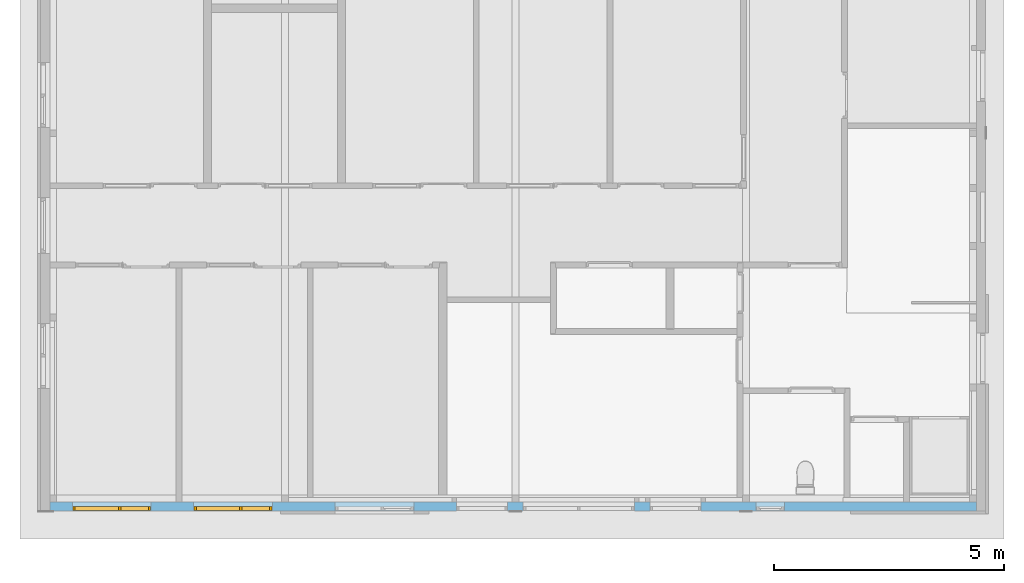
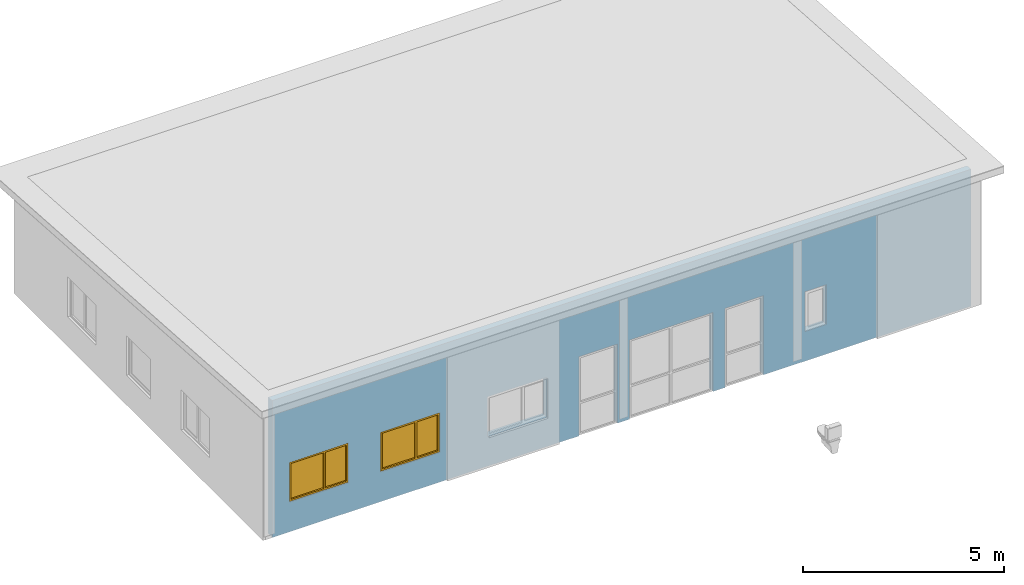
# One storey, part 15 of 37: 2 windows, 7 openings, plus 1 element that does not belong to this part.
"""IFC2X3 building model written with IfcOpenShell, lengths in millimetres."""

from ifc_helpers import new_model, entity, si_unit, converted_unit, frame, frame_2d, origin, origin_with_axes, place, context, subcontext, project, spatial, rectangle, extrude, clip, halfspace, faceted_brep, material, layer, layer_set, layer_usage, type_object, element, fill, save


model = new_model("IFC2X3")

# Units and contexts
model_context = context("Model", 3, precision=1e-05, world=origin())
plan_context = context("Plan", 3, precision=1e-05, world=origin())
body_context = subcontext(model_context, "Body", "Model", "MODEL_VIEW")
ifc_project = project(units=[si_unit("LENGTHUNIT", "METRE", prefix="MILLI"), converted_unit("PLANEANGLEUNIT", "DEGREE", entity("IfcPlaneAngleMeasure", 0.0174532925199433), si_unit("PLANEANGLEUNIT", "RADIAN"), dimensions=[0, 0, 0, 0, 0, 0, 0]), si_unit("AREAUNIT", "SQUARE_METRE"), si_unit("VOLUMEUNIT", "CUBIC_METRE")], contexts=[model_context, plan_context])

# Building, storey
building_placement = place(None, origin())
building = spatial("IfcBuilding", under=ifc_project, at=building_placement, Name="HEKF Administrasjonbygg", CompositionType="ELEMENT")
storey_placement = place(building_placement, frame((0.0, 0.0, 9900.0), z_axis=(0.0, 0.0, 1.0), x_axis=(1.0, 0.0, 0.0)))
storey = spatial("IfcBuildingStorey", under=building, at=storey_placement, Name="Plan 2", CompositionType="ELEMENT", Elevation=9900.0)

# Wall, openings, windows
ifc_material_1 = material(Name="Paroc 200")
ifc_layer = layer(ifc_material_1, 200.0)
ifc_layer_set = layer_set([ifc_layer])
ifc_layer_usage = layer_usage(ifc_layer_set, "AXIS2", "POSITIVE", 0.0)
wall_placement = place(storey_placement, frame((30000.0, -12000.0, 0.0), z_axis=(0.0, 0.0, 1.0), x_axis=(-1.0, 9.049698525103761e-17, 0.0)))
wall = element("IfcWallStandardCase", 1, at=wall_placement, inside=storey, material=ifc_layer_usage, context=body_context, shape_type="Clipping", body=[
    clip(extrude(rectangle(XDim=20100.00000000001, YDim=200.0, at=frame_2d((10050.0, 100.0), x_axis=(1.0, 0.0))), origin_with_axes(), (0.0, 0.0, 1.0), 4163.33333333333), halfspace(frame((0.0, 0.0, 4149.999999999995), z_axis=(9.405890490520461e-21, 0.06651901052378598, -0.9977851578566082), x_axis=(1.0, 0.0, 0.0)), True)),
])
opening_1_placement = place(wall_placement, frame((4165.0, 0.0, 900.0), z_axis=(0.0, 1.0, 0.0), x_axis=(0.0, 0.0, 1.0)))
element("IfcOpeningElement", 2, at=opening_1_placement, cuts=wall, Name="Window opening", ObjectType="Opening", context=body_context, shape_type="SweptSolid", body=[
    extrude(rectangle(XDim=1210.0, YDim=610.0, at=frame_2d((605.0, 305.0), x_axis=(1.0, 0.0))), origin_with_axes(), (0.0, 0.0, 1.0), 200.0),
])
opening_2_placement = place(wall_placement, frame((7420.0, 0.0, 0.0), z_axis=(0.0, 1.0, 0.0), x_axis=(0.0, 0.0, 1.0)))
element("IfcOpeningElement", 3, at=opening_2_placement, cuts=wall, Name="Window opening", ObjectType="Opening", context=body_context, shape_type="SweptSolid", body=[
    extrude(rectangle(XDim=2410.0, YDim=2410.0, at=frame_2d((1205.0, 1205.0), x_axis=(1.0, 0.0))), origin_with_axes(), (0.0, 0.0, 1.0), 200.0),
])
opening_3_placement = place(wall_placement, frame((5970.0, 0.0, 0.0), z_axis=(0.0, 1.0, 0.0), x_axis=(0.0, 0.0, 1.0)))
element("IfcOpeningElement", 4, at=opening_3_placement, cuts=wall, Name="Window opening", ObjectType="Opening", context=body_context, shape_type="SweptSolid", body=[
    extrude(rectangle(XDim=2410.0, YDim=1110.0, at=frame_2d((1205.0, 555.0), x_axis=(1.0, 0.0))), origin_with_axes(), (0.0, 0.0, 1.0), 200.0),
])
opening_4_placement = place(wall_placement, frame((10170.0, -1.818989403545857e-12, 0.0), z_axis=(0.0, 1.0, 0.0), x_axis=(0.0, 0.0, 1.0)))
element("IfcOpeningElement", 5, at=opening_4_placement, cuts=wall, Name="Window opening", ObjectType="Opening", context=body_context, shape_type="SweptSolid", body=[
    extrude(rectangle(XDim=2410.0, YDim=1110.0, at=frame_2d((1205.0, 555.0), x_axis=(1.0, 0.0))), origin_with_axes(), (0.0, 0.0, 1.0), 200.0),
])
opening_5_placement = place(wall_placement, frame((12200.0, -1.818989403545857e-12, 900.0), z_axis=(0.0, 1.0, 0.0), x_axis=(0.0, 0.0, 1.0)))
element("IfcOpeningElement", 6, at=opening_5_placement, cuts=wall, Name="Window opening", ObjectType="Opening", context=body_context, shape_type="SweptSolid", body=[
    extrude(rectangle(XDim=1210.0, YDim=1709.999999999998, at=frame_2d((605.0, 854.9999999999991), x_axis=(1.0, 0.0))), origin_with_axes(), (0.0, 0.0, 1.0), 200.0),
])
opening_6_placement = place(wall_placement, frame((15270.0, -1.818989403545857e-12, 900.0), z_axis=(0.0, 1.0, 0.0), x_axis=(0.0, 0.0, 1.0)))
opening_6 = element("IfcOpeningElement", 7, at=opening_6_placement, cuts=wall, Name="Window opening", ObjectType="Opening", context=body_context, shape_type="SweptSolid", body=[
    extrude(rectangle(XDim=1210.0, YDim=1710.0, at=frame_2d((605.0, 855.0), x_axis=(1.0, 0.0))), origin_with_axes(), (0.0, 0.0, 1.0), 200.0),
])
opening_7_placement = place(wall_placement, frame((17900.0, -1.818989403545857e-12, 900.0), z_axis=(0.0, 1.0, 0.0), x_axis=(0.0, 0.0, 1.0)))
opening_7 = element("IfcOpeningElement", 8, at=opening_7_placement, cuts=wall, Name="Window opening", ObjectType="Opening", context=body_context, shape_type="SweptSolid", body=[
    extrude(rectangle(XDim=1210.0, YDim=1710.0, at=frame_2d((605.0, 855.0), x_axis=(1.0, 0.0))), origin_with_axes(), (0.0, 0.0, 1.0), 200.0),
])
ifc_material_2 = material()
window_style_1 = type_object("IfcWindowStyle", Name="V202", ConstructionType="NOTDEFINED", OperationType="USERDEFINED", ParameterTakesPrecedence=False, Sizeable=False)
window_1_placement = place(opening_6_placement, frame((0.0, 0.0, 0.0), z_axis=(1.0, 0.0, 0.0), x_axis=(0.0, 1.0, 0.0)))
window_1 = element("IfcWindow", 9, at=window_1_placement, inside=storey, type_object=window_style_1, material=ifc_material_2, Name="V202", OverallHeight=1210.0, OverallWidth=1710.0, context=body_context, shape_type="Brep", body=[
    faceted_brep([(1700.0, 93.99999999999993, 1200.0), (1700.0, 94.0, 9.999999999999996), (1650.0, 94.0, 9.999999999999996), (1650.0, 93.99999999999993, 1200.0), (1700.0, 186.0, 10.0), (1700.0, 185.9999999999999, 1200.0), (1650.0, 185.9999999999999, 1200.0), (1650.0, 186.0, 10.0), (1700.0, 94.0, 9.999999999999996), (1700.0, 93.99999999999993, 1200.0), (1700.0, 185.9999999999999, 1200.0), (1700.0, 186.0, 10.0), (1650.0, 94.0, 9.999999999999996), (1700.0, 94.0, 9.999999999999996), (1700.0, 186.0, 10.0), (1650.0, 186.0, 10.0), (1650.0, 93.99999999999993, 1200.0), (1650.0, 94.0, 9.999999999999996), (1650.0, 186.0, 10.0), (1650.0, 185.9999999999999, 1200.0), (1700.0, 93.99999999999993, 1200.0), (1650.0, 93.99999999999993, 1200.0), (1650.0, 185.9999999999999, 1200.0), (1700.0, 185.9999999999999, 1200.0)], [[[0, 1, 2, 3]], [[4, 5, 6, 7]], [[8, 9, 10, 11]], [[12, 13, 14, 15]], [[16, 17, 18, 19]], [[20, 21, 22, 23]]], orient=[[False], [False], [False], [False], [False], [False]]),
    faceted_brep([(60.0, 93.99999999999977, 1200.0), (60.0, 93.99999999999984, 9.999999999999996), (10.0, 93.99999999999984, 9.999999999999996), (10.0, 93.99999999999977, 1200.0), (60.0, 185.9999999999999, 10.0), (60.0, 185.9999999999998, 1200.0), (10.0, 185.9999999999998, 1200.0), (10.0, 185.9999999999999, 10.0), (60.0, 93.99999999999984, 9.999999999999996), (60.0, 93.99999999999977, 1200.0), (60.0, 185.9999999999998, 1200.0), (60.0, 185.9999999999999, 10.0), (10.0, 93.99999999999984, 9.999999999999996), (60.0, 93.99999999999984, 9.999999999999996), (60.0, 185.9999999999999, 10.0), (10.0, 185.9999999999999, 10.0), (10.0, 93.99999999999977, 1200.0), (10.0, 93.99999999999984, 9.999999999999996), (10.0, 185.9999999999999, 10.0), (10.0, 185.9999999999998, 1200.0), (60.0, 93.99999999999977, 1200.0), (10.0, 93.99999999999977, 1200.0), (10.0, 185.9999999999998, 1200.0), (60.0, 185.9999999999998, 1200.0)], [[[0, 1, 2, 3]], [[4, 5, 6, 7]], [[8, 9, 10, 11]], [[12, 13, 14, 15]], [[16, 17, 18, 19]], [[20, 21, 22, 23]]], orient=[[False], [False], [False], [False], [False], [False]]),
    faceted_brep([(1650.0, 94.0, 60.0), (1650.0, 94.0, 9.999999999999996), (60.00000000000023, 93.99999999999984, 9.999999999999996), (60.00000000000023, 93.99999999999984, 60.0), (1650.0, 186.0, 10.0), (1650.0, 186.0, 60.0), (60.00000000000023, 185.9999999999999, 60.0), (60.00000000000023, 185.9999999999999, 10.0), (1650.0, 94.0, 9.999999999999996), (1650.0, 94.0, 60.0), (1650.0, 186.0, 60.0), (1650.0, 186.0, 10.0), (60.00000000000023, 93.99999999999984, 9.999999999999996), (1650.0, 94.0, 9.999999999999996), (1650.0, 186.0, 10.0), (60.00000000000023, 185.9999999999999, 10.0), (60.00000000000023, 93.99999999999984, 60.0), (60.00000000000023, 93.99999999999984, 9.999999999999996), (60.00000000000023, 185.9999999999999, 10.0), (60.00000000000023, 185.9999999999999, 60.0), (1650.0, 94.0, 60.0), (60.00000000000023, 93.99999999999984, 60.0), (60.00000000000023, 185.9999999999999, 60.0), (1650.0, 186.0, 60.0)], [[[0, 1, 2, 3]], [[4, 5, 6, 7]], [[8, 9, 10, 11]], [[12, 13, 14, 15]], [[16, 17, 18, 19]], [[20, 21, 22, 23]]], orient=[[False], [False], [False], [False], [False], [False]]),
    faceted_brep([(1650.0, 93.99999999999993, 1200.0), (1650.0, 93.99999999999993, 1150.0), (60.00000000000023, 93.99999999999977, 1150.0), (60.00000000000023, 93.99999999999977, 1200.0), (1650.0, 185.9999999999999, 1150.0), (1650.0, 185.9999999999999, 1200.0), (60.00000000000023, 185.9999999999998, 1200.0), (60.00000000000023, 185.9999999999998, 1150.0), (1650.0, 93.99999999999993, 1150.0), (1650.0, 93.99999999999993, 1200.0), (1650.0, 185.9999999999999, 1200.0), (1650.0, 185.9999999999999, 1150.0), (60.00000000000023, 93.99999999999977, 1150.0), (1650.0, 93.99999999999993, 1150.0), (1650.0, 185.9999999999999, 1150.0), (60.00000000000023, 185.9999999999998, 1150.0), (60.00000000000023, 93.99999999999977, 1200.0), (60.00000000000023, 93.99999999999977, 1150.0), (60.00000000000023, 185.9999999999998, 1150.0), (60.00000000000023, 185.9999999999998, 1200.0), (1650.0, 93.99999999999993, 1200.0), (60.00000000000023, 93.99999999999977, 1200.0), (60.00000000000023, 185.9999999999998, 1200.0), (1650.0, 185.9999999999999, 1200.0)], [[[0, 1, 2, 3]], [[4, 5, 6, 7]], [[8, 9, 10, 11]], [[12, 13, 14, 15]], [[16, 17, 18, 19]], [[20, 21, 22, 23]]], orient=[[False], [False], [False], [False], [False], [False]]),
    faceted_brep([(710.0000000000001, 93.99999999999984, 1150.0), (710.0000000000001, 93.99999999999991, 60.00000000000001), (660.0, 93.9999999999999, 60.00000000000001), (660.0, 93.99999999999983, 1150.0), (710.0000000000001, 185.9999999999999, 60.00000000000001), (710.0000000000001, 185.9999999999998, 1150.0), (660.0, 185.9999999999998, 1150.0), (660.0, 185.9999999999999, 60.00000000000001), (710.0000000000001, 93.99999999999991, 60.00000000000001), (710.0000000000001, 93.99999999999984, 1150.0), (710.0000000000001, 185.9999999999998, 1150.0), (710.0000000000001, 185.9999999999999, 60.00000000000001), (660.0, 93.9999999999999, 60.00000000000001), (710.0000000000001, 93.99999999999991, 60.00000000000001), (710.0000000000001, 185.9999999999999, 60.00000000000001), (660.0, 185.9999999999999, 60.00000000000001), (660.0, 93.99999999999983, 1150.0), (660.0, 93.9999999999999, 60.00000000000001), (660.0, 185.9999999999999, 60.00000000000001), (660.0, 185.9999999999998, 1150.0), (710.0000000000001, 93.99999999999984, 1150.0), (660.0, 93.99999999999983, 1150.0), (660.0, 185.9999999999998, 1150.0), (710.0000000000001, 185.9999999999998, 1150.0)], [[[0, 1, 2, 3]], [[4, 5, 6, 7]], [[8, 9, 10, 11]], [[12, 13, 14, 15]], [[16, 17, 18, 19]], [[20, 21, 22, 23]]], orient=[[False], [False], [False], [False], [False], [False]]),
    faceted_brep([(1650.0, 140.0, 60.00000000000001), (710.0000000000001, 139.9999999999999, 60.00000000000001), (710.0000000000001, 139.9999999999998, 1150.0), (1650.0, 139.9999999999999, 1150.0), (1650.0, 141.0, 60.00000000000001), (1650.0, 140.9999999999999, 1150.0), (710.0000000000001, 140.9999999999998, 1150.0), (710.0000000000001, 140.9999999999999, 60.00000000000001), (1650.0, 140.0, 60.00000000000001), (1650.0, 141.0, 60.00000000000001), (710.0000000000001, 140.9999999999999, 60.00000000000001), (710.0000000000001, 139.9999999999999, 60.00000000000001), (710.0000000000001, 139.9999999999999, 60.00000000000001), (710.0000000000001, 140.9999999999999, 60.00000000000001), (710.0000000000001, 140.9999999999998, 1150.0), (710.0000000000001, 139.9999999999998, 1150.0), (710.0000000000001, 139.9999999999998, 1150.0), (710.0000000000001, 140.9999999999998, 1150.0), (1650.0, 140.9999999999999, 1150.0), (1650.0, 139.9999999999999, 1150.0), (1650.0, 139.9999999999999, 1150.0), (1650.0, 140.9999999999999, 1150.0), (1650.0, 141.0, 60.00000000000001), (1650.0, 140.0, 60.00000000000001)], [[[0, 1, 2, 3]], [[4, 5, 6, 7]], [[8, 9, 10, 11]], [[12, 13, 14, 15]], [[16, 17, 18, 19]], [[20, 21, 22, 23]]], orient=[[False], [False], [False], [False], [False], [False]]),
    faceted_brep([(660.0000000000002, 139.9999999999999, 60.00000000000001), (60.00000000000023, 139.9999999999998, 60.00000000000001), (60.00000000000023, 139.9999999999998, 1150.0), (660.0000000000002, 139.9999999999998, 1150.0), (660.0000000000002, 140.9999999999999, 60.00000000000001), (660.0000000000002, 140.9999999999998, 1150.0), (60.00000000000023, 140.9999999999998, 1150.0), (60.00000000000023, 140.9999999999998, 60.00000000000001), (660.0000000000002, 139.9999999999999, 60.00000000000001), (660.0000000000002, 140.9999999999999, 60.00000000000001), (60.00000000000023, 140.9999999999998, 60.00000000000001), (60.00000000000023, 139.9999999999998, 60.00000000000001), (60.00000000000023, 139.9999999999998, 60.00000000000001), (60.00000000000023, 140.9999999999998, 60.00000000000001), (60.00000000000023, 140.9999999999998, 1150.0), (60.00000000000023, 139.9999999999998, 1150.0), (60.00000000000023, 139.9999999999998, 1150.0), (60.00000000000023, 140.9999999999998, 1150.0), (660.0000000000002, 140.9999999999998, 1150.0), (660.0000000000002, 139.9999999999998, 1150.0), (660.0000000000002, 139.9999999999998, 1150.0), (660.0000000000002, 140.9999999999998, 1150.0), (660.0000000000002, 140.9999999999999, 60.00000000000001), (660.0000000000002, 139.9999999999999, 60.00000000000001)], [[[0, 1, 2, 3]], [[4, 5, 6, 7]], [[8, 9, 10, 11]], [[12, 13, 14, 15]], [[16, 17, 18, 19]], [[20, 21, 22, 23]]], orient=[[False], [False], [False], [False], [False], [False]]),
])
fill(opening_6, window_1)
ifc_material_3 = material()
window_style_2 = type_object("IfcWindowStyle", Name="V201", ConstructionType="NOTDEFINED", OperationType="USERDEFINED", ParameterTakesPrecedence=False, Sizeable=False)
window_2_placement = place(opening_7_placement, frame((0.0, 0.0, 0.0), z_axis=(1.0, 0.0, 0.0), x_axis=(0.0, 1.0, 0.0)))
window_2 = element("IfcWindow", 10, at=window_2_placement, inside=storey, type_object=window_style_2, material=ifc_material_3, Name="V201", OverallHeight=1210.0, OverallWidth=1710.0, context=body_context, shape_type="Brep", body=[
    faceted_brep([(1700.0, 93.99999999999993, 1200.0), (1700.0, 94.0, 9.999999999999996), (1650.0, 94.0, 9.999999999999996), (1650.0, 93.99999999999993, 1200.0), (1700.0, 186.0, 10.0), (1700.0, 185.9999999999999, 1200.0), (1650.0, 185.9999999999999, 1200.0), (1650.0, 186.0, 10.0), (1700.0, 94.0, 9.999999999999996), (1700.0, 93.99999999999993, 1200.0), (1700.0, 185.9999999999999, 1200.0), (1700.0, 186.0, 10.0), (1650.0, 94.0, 9.999999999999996), (1700.0, 94.0, 9.999999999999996), (1700.0, 186.0, 10.0), (1650.0, 186.0, 10.0), (1650.0, 93.99999999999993, 1200.0), (1650.0, 94.0, 9.999999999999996), (1650.0, 186.0, 10.0), (1650.0, 185.9999999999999, 1200.0), (1700.0, 93.99999999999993, 1200.0), (1650.0, 93.99999999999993, 1200.0), (1650.0, 185.9999999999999, 1200.0), (1700.0, 185.9999999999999, 1200.0)], [[[0, 1, 2, 3]], [[4, 5, 6, 7]], [[8, 9, 10, 11]], [[12, 13, 14, 15]], [[16, 17, 18, 19]], [[20, 21, 22, 23]]], orient=[[False], [False], [False], [False], [False], [False]]),
    faceted_brep([(60.0, 93.99999999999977, 1200.0), (60.0, 93.99999999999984, 9.999999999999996), (10.0, 93.99999999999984, 9.999999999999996), (10.0, 93.99999999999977, 1200.0), (60.0, 185.9999999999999, 10.0), (60.0, 185.9999999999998, 1200.0), (10.0, 185.9999999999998, 1200.0), (10.0, 185.9999999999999, 10.0), (60.0, 93.99999999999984, 9.999999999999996), (60.0, 93.99999999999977, 1200.0), (60.0, 185.9999999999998, 1200.0), (60.0, 185.9999999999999, 10.0), (10.0, 93.99999999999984, 9.999999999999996), (60.0, 93.99999999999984, 9.999999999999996), (60.0, 185.9999999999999, 10.0), (10.0, 185.9999999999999, 10.0), (10.0, 93.99999999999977, 1200.0), (10.0, 93.99999999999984, 9.999999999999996), (10.0, 185.9999999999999, 10.0), (10.0, 185.9999999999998, 1200.0), (60.0, 93.99999999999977, 1200.0), (10.0, 93.99999999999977, 1200.0), (10.0, 185.9999999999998, 1200.0), (60.0, 185.9999999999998, 1200.0)], [[[0, 1, 2, 3]], [[4, 5, 6, 7]], [[8, 9, 10, 11]], [[12, 13, 14, 15]], [[16, 17, 18, 19]], [[20, 21, 22, 23]]], orient=[[False], [False], [False], [False], [False], [False]]),
    faceted_brep([(1650.0, 94.0, 60.0), (1650.0, 94.0, 9.999999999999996), (60.00000000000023, 93.99999999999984, 9.999999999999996), (60.00000000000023, 93.99999999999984, 60.0), (1650.0, 186.0, 10.0), (1650.0, 186.0, 60.0), (60.00000000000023, 185.9999999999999, 60.0), (60.00000000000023, 185.9999999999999, 10.0), (1650.0, 94.0, 9.999999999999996), (1650.0, 94.0, 60.0), (1650.0, 186.0, 60.0), (1650.0, 186.0, 10.0), (60.00000000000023, 93.99999999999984, 9.999999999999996), (1650.0, 94.0, 9.999999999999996), (1650.0, 186.0, 10.0), (60.00000000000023, 185.9999999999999, 10.0), (60.00000000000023, 93.99999999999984, 60.0), (60.00000000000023, 93.99999999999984, 9.999999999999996), (60.00000000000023, 185.9999999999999, 10.0), (60.00000000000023, 185.9999999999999, 60.0), (1650.0, 94.0, 60.0), (60.00000000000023, 93.99999999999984, 60.0), (60.00000000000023, 185.9999999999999, 60.0), (1650.0, 186.0, 60.0)], [[[0, 1, 2, 3]], [[4, 5, 6, 7]], [[8, 9, 10, 11]], [[12, 13, 14, 15]], [[16, 17, 18, 19]], [[20, 21, 22, 23]]], orient=[[False], [False], [False], [False], [False], [False]]),
    faceted_brep([(1650.0, 93.99999999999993, 1200.0), (1650.0, 93.99999999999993, 1150.0), (60.00000000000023, 93.99999999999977, 1150.0), (60.00000000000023, 93.99999999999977, 1200.0), (1650.0, 185.9999999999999, 1150.0), (1650.0, 185.9999999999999, 1200.0), (60.00000000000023, 185.9999999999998, 1200.0), (60.00000000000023, 185.9999999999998, 1150.0), (1650.0, 93.99999999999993, 1150.0), (1650.0, 93.99999999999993, 1200.0), (1650.0, 185.9999999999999, 1200.0), (1650.0, 185.9999999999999, 1150.0), (60.00000000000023, 93.99999999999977, 1150.0), (1650.0, 93.99999999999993, 1150.0), (1650.0, 185.9999999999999, 1150.0), (60.00000000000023, 185.9999999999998, 1150.0), (60.00000000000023, 93.99999999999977, 1200.0), (60.00000000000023, 93.99999999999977, 1150.0), (60.00000000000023, 185.9999999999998, 1150.0), (60.00000000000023, 185.9999999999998, 1200.0), (1650.0, 93.99999999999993, 1200.0), (60.00000000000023, 93.99999999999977, 1200.0), (60.00000000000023, 185.9999999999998, 1200.0), (1650.0, 185.9999999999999, 1200.0)], [[[0, 1, 2, 3]], [[4, 5, 6, 7]], [[8, 9, 10, 11]], [[12, 13, 14, 15]], [[16, 17, 18, 19]], [[20, 21, 22, 23]]], orient=[[False], [False], [False], [False], [False], [False]]),
    faceted_brep([(710.0000000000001, 93.99999999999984, 1150.0), (710.0000000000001, 93.99999999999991, 60.00000000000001), (660.0, 93.9999999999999, 60.00000000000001), (660.0, 93.99999999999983, 1150.0), (710.0000000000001, 185.9999999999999, 60.00000000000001), (710.0000000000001, 185.9999999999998, 1150.0), (660.0, 185.9999999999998, 1150.0), (660.0, 185.9999999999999, 60.00000000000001), (710.0000000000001, 93.99999999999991, 60.00000000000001), (710.0000000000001, 93.99999999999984, 1150.0), (710.0000000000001, 185.9999999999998, 1150.0), (710.0000000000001, 185.9999999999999, 60.00000000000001), (660.0, 93.9999999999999, 60.00000000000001), (710.0000000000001, 93.99999999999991, 60.00000000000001), (710.0000000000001, 185.9999999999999, 60.00000000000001), (660.0, 185.9999999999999, 60.00000000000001), (660.0, 93.99999999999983, 1150.0), (660.0, 93.9999999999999, 60.00000000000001), (660.0, 185.9999999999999, 60.00000000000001), (660.0, 185.9999999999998, 1150.0), (710.0000000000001, 93.99999999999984, 1150.0), (660.0, 93.99999999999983, 1150.0), (660.0, 185.9999999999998, 1150.0), (710.0000000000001, 185.9999999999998, 1150.0)], [[[0, 1, 2, 3]], [[4, 5, 6, 7]], [[8, 9, 10, 11]], [[12, 13, 14, 15]], [[16, 17, 18, 19]], [[20, 21, 22, 23]]], orient=[[False], [False], [False], [False], [False], [False]]),
    faceted_brep([(1650.0, 140.0, 60.00000000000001), (710.0000000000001, 139.9999999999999, 60.00000000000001), (710.0000000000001, 139.9999999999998, 1150.0), (1650.0, 139.9999999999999, 1150.0), (1650.0, 141.0, 60.00000000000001), (1650.0, 140.9999999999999, 1150.0), (710.0000000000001, 140.9999999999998, 1150.0), (710.0000000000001, 140.9999999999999, 60.00000000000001), (1650.0, 140.0, 60.00000000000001), (1650.0, 141.0, 60.00000000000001), (710.0000000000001, 140.9999999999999, 60.00000000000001), (710.0000000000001, 139.9999999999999, 60.00000000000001), (710.0000000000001, 139.9999999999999, 60.00000000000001), (710.0000000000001, 140.9999999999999, 60.00000000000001), (710.0000000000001, 140.9999999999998, 1150.0), (710.0000000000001, 139.9999999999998, 1150.0), (710.0000000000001, 139.9999999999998, 1150.0), (710.0000000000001, 140.9999999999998, 1150.0), (1650.0, 140.9999999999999, 1150.0), (1650.0, 139.9999999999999, 1150.0), (1650.0, 139.9999999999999, 1150.0), (1650.0, 140.9999999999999, 1150.0), (1650.0, 141.0, 60.00000000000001), (1650.0, 140.0, 60.00000000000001)], [[[0, 1, 2, 3]], [[4, 5, 6, 7]], [[8, 9, 10, 11]], [[12, 13, 14, 15]], [[16, 17, 18, 19]], [[20, 21, 22, 23]]], orient=[[False], [False], [False], [False], [False], [False]]),
    faceted_brep([(660.0000000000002, 139.9999999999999, 60.00000000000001), (60.00000000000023, 139.9999999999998, 60.00000000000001), (60.00000000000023, 139.9999999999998, 1150.0), (660.0000000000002, 139.9999999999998, 1150.0), (660.0000000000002, 140.9999999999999, 60.00000000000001), (660.0000000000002, 140.9999999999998, 1150.0), (60.00000000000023, 140.9999999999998, 1150.0), (60.00000000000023, 140.9999999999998, 60.00000000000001), (660.0000000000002, 139.9999999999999, 60.00000000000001), (660.0000000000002, 140.9999999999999, 60.00000000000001), (60.00000000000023, 140.9999999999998, 60.00000000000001), (60.00000000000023, 139.9999999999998, 60.00000000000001), (60.00000000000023, 139.9999999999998, 60.00000000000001), (60.00000000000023, 140.9999999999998, 60.00000000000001), (60.00000000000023, 140.9999999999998, 1150.0), (60.00000000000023, 139.9999999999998, 1150.0), (60.00000000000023, 139.9999999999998, 1150.0), (60.00000000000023, 140.9999999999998, 1150.0), (660.0000000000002, 140.9999999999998, 1150.0), (660.0000000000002, 139.9999999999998, 1150.0), (660.0000000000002, 139.9999999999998, 1150.0), (660.0000000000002, 140.9999999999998, 1150.0), (660.0000000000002, 140.9999999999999, 60.00000000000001), (660.0000000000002, 139.9999999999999, 60.00000000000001)], [[[0, 1, 2, 3]], [[4, 5, 6, 7]], [[8, 9, 10, 11]], [[12, 13, 14, 15]], [[16, 17, 18, 19]], [[20, 21, 22, 23]]], orient=[[False], [False], [False], [False], [False], [False]]),
])
fill(opening_7, window_2)

save(model, "model.ifc")
